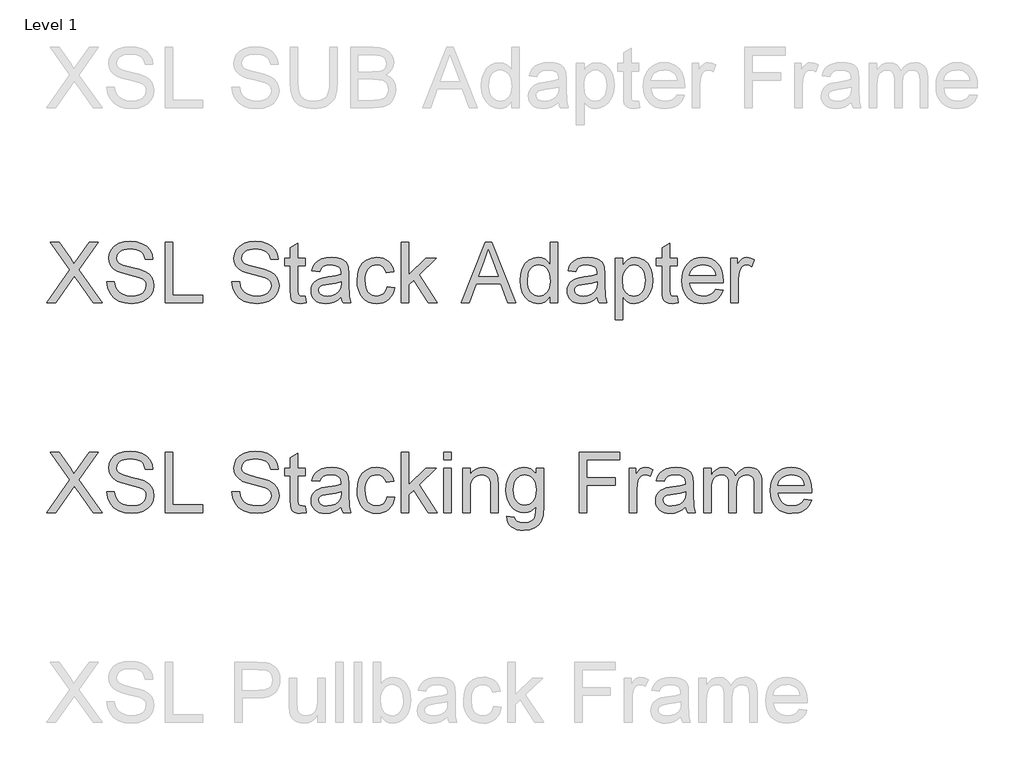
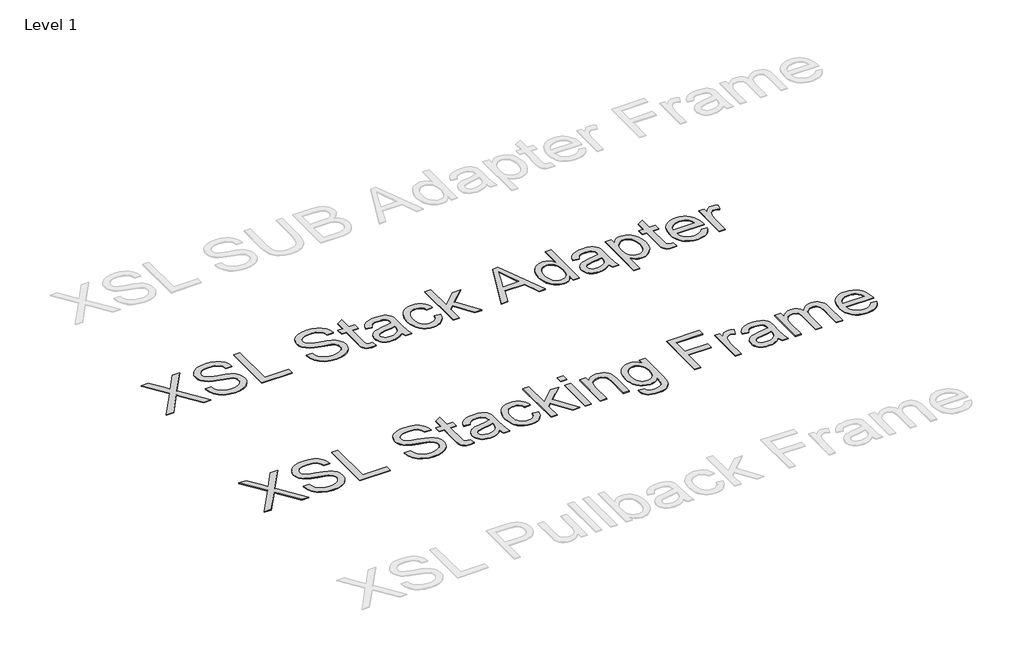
# One storey, part 5 of 52: 2 proxies.
"""IFC4 building model written with IfcOpenShell, lengths in millimetres."""

from ifc_helpers import new_model, si_unit, origin, origin_with_axes, place, context, project, spatial, polyline, outline, extrude, element, save

model = new_model("IFC4")

# Units and contexts
model_context = context("Model", 3, world=origin())
ifc_project = project(units=[si_unit("LENGTHUNIT", "METRE", prefix="MILLI")], contexts=[model_context])

# Site, building, storey
site = spatial("IfcSite", under=ifc_project)
building = spatial("IfcBuilding", under=site)
storey = spatial("IfcBuildingStorey", under=building, Name="Level 1", Elevation=0.0)

# Proxies
placement = place(None, origin())
element("IfcBuildingElementProxy", 1, Name="400mm Arial", ObjectType="400mm Arial", at=placement, inside=storey, context=model_context, shape_type="SweptSolid", body=[
    extrude(outline(polyline([(-18995.0211414, -70222.6117308), (-18840.2163979, -70003.6483673), (-18969.9070639, -69820.7864902), (-18909.7706204, -69820.7864902), (-18836.6847307, -69923.7934489), (-18812.0611625, -69963.9171118), (-18783.2192141, -69922.9105321), (-18710.9181393, -69820.7864902), (-18649.7025753, -69820.7864902), (-18779.4913432, -70004.3350804), (-18624.5884978, -70222.6117308), (-18684.8230431, -70222.6117308), (-18788.1243074, -70077.1266645), (-18809.6086159, -70047.0093918), (-18833.0549617, -70080.0697204), (-18933.8055774, -70222.6117308), (-18995.0211414, -70222.6117308)])), origin_with_axes(), (0.0, 0.0, 1.0), 5.0),
    extrude(outline(polyline([(-18593.1959008, -70084.4843044), (-18542.9677458, -70084.4843044), (-18537.2042612, -70112.3574969), (-18526.780938, -70134.7615104), (-18510.5205538, -70152.5424735), (-18487.2458862, -70166.5465148), (-18458.7963453, -70175.6332001), (-18427.0113409, -70178.6620952), (-18399.0277838, -70176.3689641), (-18374.5268429, -70169.4895707), (-18354.6734779, -70158.6002637), (-18340.6326484, -70144.2773913), (-18332.2817271, -70127.8330662), (-18329.4980867, -70110.5794006), (-18331.5827513, -70093.7671934), (-18337.8367453, -70079.2358546), (-18350.5409368, -70066.8382314), (-18371.9761944, -70056.4271709), (-18445.1111351, -70037.2482562), (-18493.1197354, -70024.5563274), (-18523.837882, -70012.4775352), (-18548.841595, -69995.5794889), (-18566.5612444, -69975.1007245), (-18577.1194577, -69951.4827004), (-18580.6388621, -69925.166875), (-18576.2855918, -69895.7485781), (-18563.225781, -69868.316844), (-18541.8027861, -69845.0667019), (-18512.3599638, -69828.1931811), (-18477.0187668, -69817.9292734), (-18437.9006479, -69814.5079709), (-18395.5206421, -69818.0886889), (-18358.438137, -69828.8308432), (-18327.9775078, -69846.5137044), (-18305.4631297, -69870.9165435), (-18291.2138337, -69900.5187813), (-18285.548451, -69933.7998392), (-18335.7766061, -69933.7998392), (-18344.9981814, -69903.8297193), (-18353.3613655, -69891.9716563), (-18364.226147, -69882.198258), (-18394.2698433, -69869.1016589), (-18435.9386106, -69864.7361259), (-18478.5883966, -69869.052608), (-18494.8917004, -69874.4482106), (-18507.847278, -69882.0020542), (-18524.7698497, -69901.0583416), (-18530.410707, -69923.695347), (-18526.413056, -69942.996889), (-18514.4201029, -69958.5215092), (-18486.0686638, -69972.4029232), (-18432.4069435, -69986.5786427), (-18377.0284405, -70000.0431238), (-18343.5266535, -70011.7908221), (-18314.8931715, -70030.0132436), (-18294.9171792, -70052.5030963), (-18283.1817435, -70079.0151254), (-18279.2699316, -70109.3040763), (-18283.7703547, -70140.2674776), (-18297.2716239, -70169.3914689), (-18319.2219163, -70194.4564955), (-18349.0694088, -70213.2430027), (-18384.9624288, -70224.9784383), (-18425.0493036, -70228.8902502), (-18474.2596518, -70224.67187), (-18514.7634595, -70212.0167294), (-18547.0267105, -70190.8757774), (-18571.5153886, -70161.1999631), (-18587.2362125, -70125.0494257), (-18593.1959008, -70084.4843044)])), origin_with_axes(), (0.0, 0.0, 1.0), 5.0),
    extrude(outline(polyline([(-18203.927699, -70222.6117308), (-18203.927699, -69820.7864902), (-18153.6995439, -69820.7864902), (-18153.6995439, -70172.3835758), (-17952.7869236, -70172.3835758), (-17952.7869236, -70222.6117308), (-18203.927699, -70222.6117308)])), origin_with_axes(), (0.0, 0.0, 1.0), 5.0),
    extrude(outline(polyline([(-17758.1528227, -70084.4843044), (-17707.9246677, -70084.4843044), (-17702.1611831, -70112.3574969), (-17691.7378599, -70134.7615104), (-17675.4774757, -70152.5424735), (-17652.2028081, -70166.5465148), (-17623.7532672, -70175.6332001), (-17591.9682628, -70178.6620952), (-17563.9847057, -70176.3689641), (-17539.4837648, -70169.4895707), (-17519.6303998, -70158.6002637), (-17505.5895703, -70144.2773913), (-17497.238649, -70127.8330662), (-17494.4550086, -70110.5794006), (-17496.5396732, -70093.7671934), (-17502.7936671, -70079.2358546), (-17515.4978587, -70066.8382314), (-17536.9331163, -70056.4271709), (-17610.0680569, -70037.2482562), (-17658.0766573, -70024.5563274), (-17688.7948039, -70012.4775352), (-17713.7985168, -69995.5794889), (-17731.5181663, -69975.1007245), (-17742.0763795, -69951.4827004), (-17745.595784, -69925.166875), (-17741.2425137, -69895.7485781), (-17728.1827029, -69868.316844), (-17706.759708, -69845.0667019), (-17677.3168857, -69828.1931811), (-17641.9756886, -69817.9292734), (-17602.8575698, -69814.5079709), (-17560.477564, -69818.0886889), (-17523.3950589, -69828.8308432), (-17492.9344297, -69846.5137044), (-17470.4200516, -69870.9165435), (-17456.1707556, -69900.5187813), (-17450.5053729, -69933.7998392), (-17500.733528, -69933.7998392), (-17509.9551033, -69903.8297193), (-17518.3182873, -69891.9716563), (-17529.1830689, -69882.198258), (-17559.2267652, -69869.1016589), (-17600.8955325, -69864.7361259), (-17643.5453185, -69869.052608), (-17659.8486222, -69874.4482106), (-17672.8041998, -69882.0020542), (-17689.7267716, -69901.0583416), (-17695.3676289, -69923.695347), (-17691.3699779, -69942.996889), (-17679.3770248, -69958.5215092), (-17651.0255857, -69972.4029232), (-17597.3638654, -69986.5786427), (-17541.9853624, -70000.0431238), (-17508.4835753, -70011.7908221), (-17479.8500934, -70030.0132436), (-17459.874101, -70052.5030963), (-17448.1386654, -70079.0151254), (-17444.2268535, -70109.3040763), (-17448.7272766, -70140.2674776), (-17462.2285458, -70169.3914689), (-17484.1788382, -70194.4564955), (-17514.0263307, -70213.2430027), (-17549.9193507, -70224.9784383), (-17590.0062255, -70228.8902502), (-17639.2165737, -70224.67187), (-17679.7203814, -70212.0167294), (-17711.9836323, -70190.8757774), (-17736.4723105, -70161.1999631), (-17752.1931344, -70125.0494257), (-17758.1528227, -70084.4843044)])), origin_with_axes(), (0.0, 0.0, 1.0), 5.0),
    extrude(outline(polyline([(-17268.4283107, -70180.7222343), (-17262.1497914, -70224.0832588), (-17299.7228058, -70228.8902502), (-17323.8313392, -70226.8055856), (-17341.8085061, -70220.5515917), (-17354.5126976, -70210.9130834), (-17362.8023052, -70198.6748757), (-17367.364042, -70177.656551), (-17368.8846209, -70141.6776919), (-17368.8846209, -69977.7494749), (-17406.5557372, -69977.7494749), (-17406.5557372, -69927.5213198), (-17368.8846209, -69927.5213198), (-17368.8846209, -69855.8088562), (-17318.6564658, -69826.2801947), (-17318.6564658, -69927.5213198), (-17268.4283107, -69927.5213198), (-17268.4283107, -69977.7494749), (-17318.6564658, -69977.7494749), (-17318.6564658, -70140.2061639), (-17316.0077155, -70166.1050564), (-17307.4238022, -70175.2775808), (-17290.3050267, -70178.6620952), (-17268.4283107, -70180.7222343)])), origin_with_axes(), (0.0, 0.0, 1.0), 5.0),
    extrude(outline(polyline([(-17029.8445741, -70184.9406145), (-17053.842743, -70205.5174808), (-17078.5521503, -70218.9819618), (-17104.5368819, -70226.4131781), (-17132.3610235, -70228.8902502), (-17154.7251831, -70227.4003281), (-17174.3363591, -70222.9305619), (-17191.1945515, -70215.4809515), (-17205.2997604, -70205.0514969), (-17216.4373878, -70192.3043858), (-17224.3928359, -70177.9018057), (-17229.1661048, -70161.8437566), (-17230.7571944, -70144.1302385), (-17228.3536987, -70123.3081176), (-17221.1432116, -70104.3989831), (-17210.0209126, -70088.2121753), (-17195.8819813, -70075.5570346), (-17179.2659778, -70065.9921028), (-17160.7124626, -70059.0759213), (-17117.2533362, -70051.5220776), (-17065.8970097, -70043.5758265), (-17030.1388797, -70034.2561493), (-17029.8445741, -70023.0725367), (-17033.3026649, -70000.6562604), (-17043.6769372, -69985.9900315), (-17066.8780283, -69975.1007245), (-17099.202593, -69971.4709555), (-17129.1236619, -69973.8867139), (-17150.0193592, -69981.1339892), (-17164.2686552, -69994.5371566), (-17174.25052, -70015.4205912), (-17224.4786751, -70009.1420718), (-17215.7598718, -69981.6735495), (-17202.7491119, -69960.0911391), (-17184.2323848, -69943.5855002), (-17158.9956799, -69931.3472925), (-17128.1303805, -69923.7689234), (-17092.7278699, -69921.2428004), (-17058.7723617, -69923.4746178), (-17031.8556624, -69930.1700701), (-17011.560839, -69940.2377741), (-16997.4709586, -69952.5863464), (-16988.1267559, -69967.8534492), (-16982.0689657, -69986.6767446), (-16979.6164191, -70030.6263803), (-16979.6164191, -70093.1172685), (-16977.0657706, -70180.3788778), (-16967.0593803, -70222.6117308), (-17017.2875354, -70222.6117308), (-17025.3318883, -70205.1495988), (-17029.8445741, -70184.9406145)]), holes=[polyline([(-17029.8445741, -70084.4843044), (-17063.5916158, -70092.8474884), (-17110.8767149, -70099.8862973), (-17154.0905866, -70108.0287521), (-17165.335513, -70113.5960329), (-17173.6619088, -70121.2725039), (-17178.8122567, -70130.4695538), (-17180.5290394, -70140.5985714), (-17176.7889057, -70155.5345804), (-17165.5685049, -70167.7727881), (-17147.1130915, -70175.9397684), (-17121.6679201, -70178.6620952), (-17094.6899072, -70175.6577255), (-17070.8511539, -70166.6446166), (-17051.5250864, -70153.3640766), (-17038.0851308, -70137.5574136), (-17032.1254425, -70121.2725039), (-17030.1388797, -70098.7090749), (-17029.8445741, -70084.4843044)])]), origin_with_axes(), (0.0, 0.0, 1.0), 5.0),
    extrude(outline(polyline([(-16722.1971243, -70115.8769013), (-16671.9689692, -70122.1554207), (-16677.4320169, -70145.8562182), (-16685.9730105, -70166.8285576), (-16697.5919502, -70185.0724389), (-16712.2888359, -70200.5878621), (-16729.4443996, -70212.9701569), (-16748.4393733, -70221.8146532), (-16769.273757, -70227.121351), (-16791.9475506, -70228.8902502), (-16820.1181144, -70226.4223752), (-16845.376279, -70219.01875), (-16867.7220446, -70206.6793748), (-16887.1554109, -70189.4042494), (-16902.8854319, -70167.5183364), (-16914.1211612, -70141.3465981), (-16920.8625988, -70110.8890346), (-16923.1097446, -70076.1456458), (-16919.2715091, -70031.4479834), (-16907.7568027, -69992.7100093), (-16888.3816843, -69961.427777), (-16860.9622129, -69939.0973399), (-16828.1594017, -69925.7064353), (-16792.6342637, -69921.2428004), (-16770.3498118, -69922.775642), (-16750.1929441, -69927.374167), (-16732.1636607, -69935.0383752), (-16716.2619615, -69945.7682667), (-16702.7576265, -69959.3185869), (-16691.9204361, -69975.444081), (-16683.7503901, -69994.1447491), (-16678.2474886, -70015.4205912), (-16728.4756437, -70021.6991105), (-16737.5868544, -69999.7856064), (-16751.7748367, -69984.0770452), (-16770.2547756, -69974.6224779), (-16792.2418562, -69971.4709555), (-16809.3085151, -69973.0221912), (-16824.7013109, -69977.6758985), (-16838.4202436, -69985.4320772), (-16850.4653133, -69996.2907274), (-16860.2724341, -70010.5032352), (-16867.2775205, -70028.3209865), (-16871.4805723, -70049.7439813), (-16872.8815895, -70074.7722197), (-16867.4001478, -70121.8488524), (-16860.5483456, -70139.7861653), (-16850.9558226, -70153.989476), (-16839.1498763, -70164.7837469), (-16825.6578041, -70172.4939404), (-16810.4796061, -70177.1200565), (-16793.6152823, -70178.6620952), (-16767.6060252, -70174.8115969), (-16746.2811323, -70163.2601023), (-16730.7687748, -70143.7133056), (-16722.1971243, -70115.8769013)])), origin_with_axes(), (0.0, 0.0, 1.0), 5.0),
    extrude(outline(polyline([(-16628.0193335, -70222.6117308), (-16628.0193335, -69820.7864902), (-16577.7911785, -69820.7864902), (-16577.7911785, -70036.7086959), (-16465.170237, -69927.5213198), (-16395.7141163, -69927.5213198), (-16509.8065858, -70038.0821221), (-16389.4355969, -70222.6117308), (-16448.1005124, -70222.6117308), (-16545.8099704, -70073.0063861), (-16577.7911785, -70104.1046775), (-16577.7911785, -70222.6117308), (-16628.0193335, -70222.6117308)])), origin_with_axes(), (0.0, 0.0, 1.0), 5.0),
    extrude(outline(polyline([(-16345.4859612, -70222.6117308), (-16345.4859612, -69927.5213198), (-16295.2578062, -69927.5213198), (-16295.2578062, -70222.6117308), (-16345.4859612, -70222.6117308)])), origin_with_axes(), (0.0, 0.0, 1.0), 5.0),
    extrude(outline(polyline([(-16345.4859612, -69871.0146453), (-16345.4859612, -69820.7864902), (-16295.2578062, -69820.7864902), (-16295.2578062, -69871.0146453), (-16345.4859612, -69871.0146453)])), origin_with_axes(), (0.0, 0.0, 1.0), 5.0),
    extrude(outline(polyline([(-16219.9155736, -70222.6117308), (-16219.9155736, -69927.5213198), (-16169.6874185, -69927.5213198), (-16169.6874185, -69968.7241032), (-16152.2375492, -69947.9510332), (-16131.2805382, -69933.1131261), (-16106.8163855, -69924.2103818), (-16078.8450911, -69921.2428004), (-16054.0866329, -69923.6340334), (-16031.4128392, -69930.8077323), (-16012.5037047, -69941.8687176), (-15999.0392237, -69955.9218098), (-15989.9034874, -69972.9302207), (-15983.9805873, -69992.8571621), (-15981.331837, -70041.4175855), (-15981.331837, -70222.6117308), (-16031.559992, -70222.6117308), (-16031.559992, -70048.1866142), (-16033.0069945, -70022.2141453), (-16037.3480021, -70003.7464692), (-16045.3555668, -69990.5149801), (-16057.802241, -69980.2510724), (-16073.7560569, -69973.6659847), (-16092.2850467, -69971.4709555), (-16121.7033436, -69976.4005742), (-16146.7806329, -69991.1894304), (-16156.8023516, -70003.2620912), (-16163.9607221, -70019.7615987), (-16168.2557444, -70040.6879529), (-16169.6874185, -70066.0411537), (-16169.6874185, -70222.6117308), (-16219.9155736, -70222.6117308)])), origin_with_axes(), (0.0, 0.0, 1.0), 5.0),
    extrude(outline(polyline([(-15924.8251625, -70247.7258084), (-15874.5970074, -70254.0043278), (-15869.054252, -70269.7006262), (-15858.3120978, -70280.4918314), (-15837.1956712, -70288.8795409), (-15809.5554707, -70291.6754441), (-15780.0758601, -70288.5116589), (-15758.1500932, -70279.0203034), (-15742.9443041, -70263.8145143), (-15733.6246269, -70243.5074282), (-15730.1910616, -70184.9406145), (-15746.9051669, -70201.4217279), (-15765.5567841, -70213.1939518), (-15786.145913, -70220.2572861), (-15808.6725539, -70222.6117308), (-15836.2115869, -70219.87101), (-15860.4580761, -70211.6488474), (-15881.4120214, -70197.9452431), (-15899.0734228, -70178.760197), (-15913.0866612, -70155.7430469), (-15923.0961171, -70130.5431302), (-15929.1017907, -70103.160447), (-15931.1036819, -70073.5949973), (-15927.5107011, -70033.0421387), (-15916.7317586, -69995.7511672), (-15899.1469992, -69964.1501038), (-15875.1365677, -69940.6669697), (-15845.5220671, -69926.0988427), (-15811.1251005, -69921.2428004), (-15787.6358351, -69923.9896526), (-15766.3170735, -69932.2302093), (-15747.1688157, -69945.9644705), (-15730.1910616, -69965.1924361), (-15730.1910616, -69927.5213198), (-15679.9629065, -69927.5213198), (-15679.9629065, -70182.2918642), (-15683.3964718, -70241.1161952), (-15693.6971677, -70279.8541693), (-15711.4413426, -70305.5445953), (-15737.205345, -70325.226282), (-15770.4250891, -70337.7342699), (-15810.5364893, -70341.9035991), (-15835.1447291, -70340.4351369), (-15857.2697654, -70336.02975), (-15876.9115983, -70328.6874385), (-15894.0702277, -70318.4082024), (-15907.9301819, -70305.179779), (-15917.6759891, -70288.9899055), (-15923.3076493, -70269.838582), (-15924.8251625, -70247.7258084)]), holes=[polyline([(-15880.8755268, -70070.161432), (-15875.5167124, -70116.2325206), (-15868.8181944, -70133.8693966), (-15859.4402692, -70147.9071604), (-15848.0389931, -70158.6155921), (-15835.2704221, -70166.2644719), (-15821.1345565, -70170.8537998), (-15805.6313961, -70172.3835758), (-15790.2815198, -70170.8629969), (-15776.2130992, -70166.3012601), (-15763.4261342, -70158.6983656), (-15751.9206248, -70148.0543132), (-15742.4139409, -70134.1545051), (-15735.6234524, -70116.7843436), (-15730.1910616, -70071.63296), (-15735.7828679, -70028.0879945), (-15742.7726258, -70010.8864456), (-15752.5582869, -69996.7321858), (-15764.3121166, -69985.6803975), (-15777.2063806, -69977.7862631), (-15791.2410787, -69973.0497824), (-15806.416211, -69971.4709555), (-15821.3368916, -69973.0252569), (-15835.0987439, -69977.6881612), (-15859.1459636, -69996.3397783), (-15868.6526475, -70010.2794403), (-15875.443136, -70027.2296032), (-15880.8755268, -70070.161432)])]), origin_with_axes(), (0.0, 0.0, 1.0), 5.0),
    extrude(outline(polyline([(-15441.3791699, -70222.6117308), (-15441.3791699, -69820.7864902), (-15171.4028364, -69820.7864902), (-15171.4028364, -69871.0146453), (-15391.1510148, -69871.0146453), (-15391.1510148, -69990.3065136), (-15202.7954333, -69990.3065136), (-15202.7954333, -70040.5346687), (-15391.1510148, -70040.5346687), (-15391.1510148, -70222.6117308), (-15441.3791699, -70222.6117308)])), origin_with_axes(), (0.0, 0.0, 1.0), 5.0),
    extrude(outline(polyline([(-15108.6176425, -70222.6117308), (-15108.6176425, -69927.5213198), (-15064.6680068, -69927.5213198), (-15064.6680068, -69971.1766499), (-15048.4321481, -69945.8663686), (-15033.4716136, -69930.9548851), (-15018.4620282, -69923.6708216), (-15002.0790167, -69921.2428004), (-14977.0630411, -69925.1178241), (-14951.6546579, -69936.7428951), (-14968.4300769, -69981.7716513), (-14986.0884127, -69974.0461294), (-15003.7467484, -69971.4709555), (-15018.7440711, -69973.9480276), (-15032.1472385, -69981.3792439), (-15042.9752319, -69993.2005187), (-15050.2470326, -70008.8477662), (-15056.3538737, -70036.9048997), (-15058.3894875, -70067.5126817), (-15058.3894875, -70222.6117308), (-15108.6176425, -70222.6117308)])), origin_with_axes(), (0.0, 0.0, 1.0), 5.0),
    extrude(outline(polyline([(-14731.9064795, -70184.9406145), (-14755.9046483, -70205.5174808), (-14780.6140556, -70218.9819618), (-14806.5987872, -70226.4131781), (-14834.4229288, -70228.8902502), (-14856.7870884, -70227.4003281), (-14876.3982644, -70222.9305619), (-14893.2564569, -70215.4809515), (-14907.3616657, -70205.0514969), (-14918.4992931, -70192.3043858), (-14926.4547413, -70177.9018057), (-14931.2280101, -70161.8437566), (-14932.8190998, -70144.1302385), (-14930.4156041, -70123.3081176), (-14923.205117, -70104.3989831), (-14912.082818, -70088.2121753), (-14897.9438866, -70075.5570346), (-14881.3278832, -70065.9921028), (-14862.7743679, -70059.0759213), (-14819.3152415, -70051.5220776), (-14767.958915, -70043.5758265), (-14732.2007851, -70034.2561493), (-14731.9064795, -70023.0725367), (-14735.3645702, -70000.6562604), (-14745.7388425, -69985.9900315), (-14768.9399337, -69975.1007245), (-14801.2644983, -69971.4709555), (-14831.1855672, -69973.8867139), (-14852.0812646, -69981.1339892), (-14866.3305605, -69994.5371566), (-14876.3124253, -70015.4205912), (-14926.5405804, -70009.1420718), (-14917.8217771, -69981.6735495), (-14904.8110172, -69960.0911391), (-14886.2942901, -69943.5855002), (-14861.0575852, -69931.3472925), (-14830.1922858, -69923.7689234), (-14794.7897752, -69921.2428004), (-14760.834267, -69923.4746178), (-14733.9175677, -69930.1700701), (-14713.6227443, -69940.2377741), (-14699.5328639, -69952.5863464), (-14690.1886612, -69967.8534492), (-14684.130871, -69986.6767446), (-14681.6783244, -70030.6263803), (-14681.6783244, -70093.1172685), (-14679.1276759, -70180.3788778), (-14669.1212856, -70222.6117308), (-14719.3494407, -70222.6117308), (-14727.3937937, -70205.1495988), (-14731.9064795, -70184.9406145)]), holes=[polyline([(-14731.9064795, -70084.4843044), (-14765.6535212, -70092.8474884), (-14812.9386203, -70099.8862973), (-14856.152492, -70108.0287521), (-14867.3974183, -70113.5960329), (-14875.7238141, -70121.2725039), (-14880.874162, -70130.4695538), (-14882.5909447, -70140.5985714), (-14878.8508111, -70155.5345804), (-14867.6304102, -70167.7727881), (-14849.1749968, -70175.9397684), (-14823.7298255, -70178.6620952), (-14796.7518125, -70175.6577255), (-14772.9130592, -70166.6446166), (-14753.5869917, -70153.3640766), (-14740.1470362, -70137.5574136), (-14734.1873478, -70121.2725039), (-14732.2007851, -70098.7090749), (-14731.9064795, -70084.4843044)])]), origin_with_axes(), (0.0, 0.0, 1.0), 5.0),
    extrude(outline(polyline([(-14612.6146112, -70222.6117308), (-14612.6146112, -69927.5213198), (-14562.3864561, -69927.5213198), (-14562.3864561, -69976.0817431), (-14547.2787688, -69953.7758315), (-14527.8545995, -69936.3014367), (-14504.7761356, -69925.0074595), (-14478.7055649, -69921.2428004), (-14450.7710588, -69925.0810359), (-14428.379308, -69936.5957423), (-14411.6529399, -69955.0266303), (-14400.7145819, -69979.6134103), (-14382.4063213, -69954.0762685), (-14361.5228867, -69935.8354529), (-14338.0642782, -69924.8909635), (-14312.0304956, -69921.2428004), (-14291.9226789, -69922.7603136), (-14274.2735402, -69927.3128533), (-14259.0830795, -69934.9004195), (-14246.3512968, -69945.5230121), (-14236.2866585, -69959.3032585), (-14229.0976312, -69976.363786), (-14224.7842148, -69996.7045947), (-14223.3464093, -70020.3256844), (-14223.3464093, -70222.6117308), (-14273.5745644, -70222.6117308), (-14273.5745644, -70041.9080948), (-14274.7395241, -70016.8553309), (-14278.234403, -69999.9695474), (-14284.7827025, -69988.40579), (-14295.1079239, -69979.3191047), (-14308.3884639, -69973.4329928), (-14323.8027195, -69971.4709555), (-14351.0137244, -69976.4986761), (-14373.1970087, -69991.5818379), (-14381.8023817, -70003.1517266), (-14387.9490767, -70017.7505105), (-14392.8664327, -70056.0347634), (-14392.8664327, -70222.6117308), (-14443.0945878, -70222.6117308), (-14443.0945878, -70036.3162885), (-14446.0008556, -70007.9157985), (-14454.7196588, -69987.6577633), (-14470.060338, -69975.5176574), (-14492.8322335, -69971.4709555), (-14512.1828265, -69974.1687568), (-14530.0128405, -69982.2621607), (-14544.7281203, -69995.5549634), (-14554.7345106, -70013.8509613), (-14560.4734697, -70039.234819), (-14562.3864561, -70073.7912011), (-14562.3864561, -70222.6117308), (-14612.6146112, -70222.6117308)])), origin_with_axes(), (0.0, 0.0, 1.0), 5.0),
    extrude(outline(polyline([(-13941.4016482, -70134.7124595), (-13892.1545118, -70140.9909788), (-13899.7052898, -70160.7155852), (-13909.8986867, -70178.0980094), (-13922.7347027, -70193.1382517), (-13938.2133376, -70205.8363119), (-13956.175176, -70215.9224099), (-13976.4608024, -70223.1267656), (-14024.0034189, -70228.8902502), (-14055.1691552, -70226.4039811), (-14082.9381145, -70218.9451736), (-14107.3102967, -70206.5138279), (-14128.2857018, -70189.1099438), (-14145.1530913, -70167.2178994), (-14157.2012266, -70141.3220726), (-14164.4301078, -70111.4224635), (-14166.8397349, -70077.5190719), (-14164.4055823, -70042.4660492), (-14157.1031247, -70011.5700929), (-14144.9323621, -69984.8312033), (-14127.8932943, -69962.2493801), (-14106.9730715, -69944.3090015), (-14083.1588437, -69931.4944453), (-14056.4506109, -69923.8057116), (-14026.848373, -69921.2428004), (-13998.1995626, -69923.7995803), (-13972.2914731, -69931.4699199), (-13949.1241044, -69944.2538192), (-13928.6974567, -69962.1512783), (-13912.0232052, -69984.6840505), (-13900.1130256, -70011.3738892), (-13892.9669179, -70042.2207945), (-13890.584882, -70077.2247664), (-13890.8791876, -70090.7628238), (-14116.6115798, -70090.7628238), (-14113.7022464, -70110.8062611), (-14107.917302, -70128.3603637), (-14099.2567467, -70143.4251314), (-14087.7205804, -70156.0005643), (-14073.9464654, -70165.914984), (-14058.5720637, -70172.9967124), (-14023.0224002, -70178.6620952), (-13996.2896419, -70176.0378703), (-13973.7752638, -70168.1651956), (-13955.4792659, -70154.5535617), (-13941.4016482, -70134.7124595)]), holes=[polyline([(-14116.6115798, -70040.5346687), (-13940.813037, -70040.5346687), (-13947.6065912, -70013.9981141), (-13960.9239194, -69995.0154032), (-13974.6213924, -69984.7147073), (-13990.2073263, -69977.3570674), (-14007.681721, -69972.9424835), (-14027.0445767, -69971.4709555), (-14060.901983, -69976.1675823), (-14088.8978028, -69990.2574627), (-14108.3587604, -70012.2200178), (-14116.6115798, -70040.5346687)])]), origin_with_axes(), (0.0, 0.0, 1.0), 5.0),
])
element("IfcBuildingElementProxy", 2, Name="400mm Arial", ObjectType="400mm Arial", at=placement, inside=storey, context=model_context, shape_type="SweptSolid", body=[
    extrude(outline(polyline([(-18995.0211414, -68822.6117308), (-18840.2163979, -68603.6483673), (-18969.9070639, -68420.7864902), (-18909.7706204, -68420.7864902), (-18836.6847307, -68523.7934489), (-18812.0611625, -68563.9171118), (-18783.2192141, -68522.9105321), (-18710.9181393, -68420.7864902), (-18649.7025753, -68420.7864902), (-18779.4913432, -68604.3350804), (-18624.5884978, -68822.6117308), (-18684.8230431, -68822.6117308), (-18788.1243074, -68677.1266645), (-18809.6086159, -68647.0093918), (-18833.0549617, -68680.0697204), (-18933.8055774, -68822.6117308), (-18995.0211414, -68822.6117308)])), origin_with_axes(), (0.0, 0.0, 1.0), 5.0),
    extrude(outline(polyline([(-18593.1959008, -68684.4843044), (-18542.9677458, -68684.4843044), (-18537.2042612, -68712.3574969), (-18526.780938, -68734.7615104), (-18510.5205538, -68752.5424735), (-18487.2458862, -68766.5465148), (-18458.7963453, -68775.6332001), (-18427.0113409, -68778.6620952), (-18399.0277838, -68776.3689641), (-18374.5268429, -68769.4895707), (-18354.6734779, -68758.6002637), (-18340.6326484, -68744.2773913), (-18332.2817271, -68727.8330662), (-18329.4980867, -68710.5794006), (-18331.5827513, -68693.7671934), (-18337.8367453, -68679.2358546), (-18350.5409368, -68666.8382314), (-18371.9761944, -68656.4271709), (-18445.1111351, -68637.2482562), (-18493.1197354, -68624.5563274), (-18523.837882, -68612.4775352), (-18548.841595, -68595.5794889), (-18566.5612444, -68575.1007245), (-18577.1194577, -68551.4827004), (-18580.6388621, -68525.166875), (-18576.2855918, -68495.7485781), (-18563.225781, -68468.316844), (-18541.8027861, -68445.0667019), (-18512.3599638, -68428.1931811), (-18477.0187668, -68417.9292734), (-18437.9006479, -68414.5079709), (-18395.5206421, -68418.0886889), (-18358.438137, -68428.8308432), (-18327.9775078, -68446.5137044), (-18305.4631297, -68470.9165435), (-18291.2138337, -68500.5187813), (-18285.548451, -68533.7998392), (-18335.7766061, -68533.7998392), (-18344.9981814, -68503.8297193), (-18353.3613655, -68491.9716563), (-18364.226147, -68482.198258), (-18394.2698433, -68469.1016589), (-18435.9386106, -68464.7361259), (-18478.5883966, -68469.052608), (-18494.8917004, -68474.4482106), (-18507.847278, -68482.0020542), (-18524.7698497, -68501.0583416), (-18530.410707, -68523.695347), (-18526.413056, -68542.996889), (-18514.4201029, -68558.5215092), (-18486.0686638, -68572.4029232), (-18432.4069435, -68586.5786427), (-18377.0284405, -68600.0431238), (-18343.5266535, -68611.7908221), (-18314.8931715, -68630.0132436), (-18294.9171792, -68652.5030963), (-18283.1817435, -68679.0151254), (-18279.2699316, -68709.3040763), (-18283.7703547, -68740.2674776), (-18297.2716239, -68769.3914689), (-18319.2219163, -68794.4564955), (-18349.0694088, -68813.2430027), (-18384.9624288, -68824.9784383), (-18425.0493036, -68828.8902502), (-18474.2596518, -68824.67187), (-18514.7634595, -68812.0167294), (-18547.0267105, -68790.8757774), (-18571.5153886, -68761.1999631), (-18587.2362125, -68725.0494257), (-18593.1959008, -68684.4843044)])), origin_with_axes(), (0.0, 0.0, 1.0), 5.0),
    extrude(outline(polyline([(-18203.927699, -68822.6117308), (-18203.927699, -68420.7864902), (-18153.6995439, -68420.7864902), (-18153.6995439, -68772.3835758), (-17952.7869236, -68772.3835758), (-17952.7869236, -68822.6117308), (-18203.927699, -68822.6117308)])), origin_with_axes(), (0.0, 0.0, 1.0), 5.0),
    extrude(outline(polyline([(-17758.1528227, -68684.4843044), (-17707.9246677, -68684.4843044), (-17702.1611831, -68712.3574969), (-17691.7378599, -68734.7615104), (-17675.4774757, -68752.5424735), (-17652.2028081, -68766.5465148), (-17623.7532672, -68775.6332001), (-17591.9682628, -68778.6620952), (-17563.9847057, -68776.3689641), (-17539.4837648, -68769.4895707), (-17519.6303998, -68758.6002637), (-17505.5895703, -68744.2773913), (-17497.238649, -68727.8330662), (-17494.4550086, -68710.5794006), (-17496.5396732, -68693.7671934), (-17502.7936671, -68679.2358546), (-17515.4978587, -68666.8382314), (-17536.9331163, -68656.4271709), (-17610.0680569, -68637.2482562), (-17658.0766573, -68624.5563274), (-17688.7948039, -68612.4775352), (-17713.7985168, -68595.5794889), (-17731.5181663, -68575.1007245), (-17742.0763795, -68551.4827004), (-17745.595784, -68525.166875), (-17741.2425137, -68495.7485781), (-17728.1827029, -68468.316844), (-17706.759708, -68445.0667019), (-17677.3168857, -68428.1931811), (-17641.9756886, -68417.9292734), (-17602.8575698, -68414.5079709), (-17560.477564, -68418.0886889), (-17523.3950589, -68428.8308432), (-17492.9344297, -68446.5137044), (-17470.4200516, -68470.9165435), (-17456.1707556, -68500.5187813), (-17450.5053729, -68533.7998392), (-17500.733528, -68533.7998392), (-17509.9551033, -68503.8297193), (-17518.3182873, -68491.9716563), (-17529.1830689, -68482.198258), (-17559.2267652, -68469.1016589), (-17600.8955325, -68464.7361259), (-17643.5453185, -68469.052608), (-17659.8486222, -68474.4482106), (-17672.8041998, -68482.0020542), (-17689.7267716, -68501.0583416), (-17695.3676289, -68523.695347), (-17691.3699779, -68542.996889), (-17679.3770248, -68558.5215092), (-17651.0255857, -68572.4029232), (-17597.3638654, -68586.5786427), (-17541.9853624, -68600.0431238), (-17508.4835753, -68611.7908221), (-17479.8500934, -68630.0132436), (-17459.874101, -68652.5030963), (-17448.1386654, -68679.0151254), (-17444.2268535, -68709.3040763), (-17448.7272766, -68740.2674776), (-17462.2285458, -68769.3914689), (-17484.1788382, -68794.4564955), (-17514.0263307, -68813.2430027), (-17549.9193507, -68824.9784383), (-17590.0062255, -68828.8902502), (-17639.2165737, -68824.67187), (-17679.7203814, -68812.0167294), (-17711.9836323, -68790.8757774), (-17736.4723105, -68761.1999631), (-17752.1931344, -68725.0494257), (-17758.1528227, -68684.4843044)])), origin_with_axes(), (0.0, 0.0, 1.0), 5.0),
    extrude(outline(polyline([(-17268.4283107, -68780.7222343), (-17262.1497914, -68824.0832588), (-17299.7228058, -68828.8902502), (-17323.8313392, -68826.8055856), (-17341.8085061, -68820.5515917), (-17354.5126976, -68810.9130834), (-17362.8023052, -68798.6748757), (-17367.364042, -68777.656551), (-17368.8846209, -68741.6776919), (-17368.8846209, -68577.7494749), (-17406.5557372, -68577.7494749), (-17406.5557372, -68527.5213198), (-17368.8846209, -68527.5213198), (-17368.8846209, -68455.8088562), (-17318.6564658, -68426.2801947), (-17318.6564658, -68527.5213198), (-17268.4283107, -68527.5213198), (-17268.4283107, -68577.7494749), (-17318.6564658, -68577.7494749), (-17318.6564658, -68740.2061639), (-17316.0077155, -68766.1050564), (-17307.4238022, -68775.2775808), (-17290.3050267, -68778.6620952), (-17268.4283107, -68780.7222343)])), origin_with_axes(), (0.0, 0.0, 1.0), 5.0),
    extrude(outline(polyline([(-17029.8445741, -68784.9406145), (-17053.842743, -68805.5174808), (-17078.5521503, -68818.9819618), (-17104.5368819, -68826.4131781), (-17132.3610235, -68828.8902502), (-17154.7251831, -68827.4003281), (-17174.3363591, -68822.9305619), (-17191.1945515, -68815.4809515), (-17205.2997604, -68805.0514969), (-17216.4373878, -68792.3043858), (-17224.3928359, -68777.9018057), (-17229.1661048, -68761.8437566), (-17230.7571944, -68744.1302385), (-17228.3536987, -68723.3081176), (-17221.1432116, -68704.3989831), (-17210.0209126, -68688.2121753), (-17195.8819813, -68675.5570346), (-17179.2659778, -68665.9921028), (-17160.7124626, -68659.0759213), (-17117.2533362, -68651.5220776), (-17065.8970097, -68643.5758265), (-17030.1388797, -68634.2561493), (-17029.8445741, -68623.0725367), (-17033.3026649, -68600.6562604), (-17043.6769372, -68585.9900315), (-17066.8780283, -68575.1007245), (-17099.202593, -68571.4709555), (-17129.1236619, -68573.8867139), (-17150.0193592, -68581.1339892), (-17164.2686552, -68594.5371566), (-17174.25052, -68615.4205912), (-17224.4786751, -68609.1420718), (-17215.7598718, -68581.6735495), (-17202.7491119, -68560.0911391), (-17184.2323848, -68543.5855002), (-17158.9956799, -68531.3472925), (-17128.1303805, -68523.7689234), (-17092.7278699, -68521.2428004), (-17058.7723617, -68523.4746178), (-17031.8556624, -68530.1700701), (-17011.560839, -68540.2377741), (-16997.4709586, -68552.5863464), (-16988.1267559, -68567.8534492), (-16982.0689657, -68586.6767446), (-16979.6164191, -68630.6263803), (-16979.6164191, -68693.1172685), (-16977.0657706, -68780.3788778), (-16967.0593803, -68822.6117308), (-17017.2875354, -68822.6117308), (-17025.3318883, -68805.1495988), (-17029.8445741, -68784.9406145)]), holes=[polyline([(-17029.8445741, -68684.4843044), (-17063.5916158, -68692.8474884), (-17110.8767149, -68699.8862973), (-17154.0905866, -68708.0287521), (-17165.335513, -68713.5960329), (-17173.6619088, -68721.2725039), (-17178.8122567, -68730.4695538), (-17180.5290394, -68740.5985714), (-17176.7889057, -68755.5345804), (-17165.5685049, -68767.7727881), (-17147.1130915, -68775.9397684), (-17121.6679201, -68778.6620952), (-17094.6899072, -68775.6577255), (-17070.8511539, -68766.6446166), (-17051.5250864, -68753.3640766), (-17038.0851308, -68737.5574136), (-17032.1254425, -68721.2725039), (-17030.1388797, -68698.7090749), (-17029.8445741, -68684.4843044)])]), origin_with_axes(), (0.0, 0.0, 1.0), 5.0),
    extrude(outline(polyline([(-16722.1971243, -68715.8769013), (-16671.9689692, -68722.1554207), (-16677.4320169, -68745.8562182), (-16685.9730105, -68766.8285576), (-16697.5919502, -68785.0724389), (-16712.2888359, -68800.5878621), (-16729.4443996, -68812.9701569), (-16748.4393733, -68821.8146532), (-16769.273757, -68827.121351), (-16791.9475506, -68828.8902502), (-16820.1181144, -68826.4223752), (-16845.376279, -68819.01875), (-16867.7220446, -68806.6793748), (-16887.1554109, -68789.4042494), (-16902.8854319, -68767.5183364), (-16914.1211612, -68741.3465981), (-16920.8625988, -68710.8890346), (-16923.1097446, -68676.1456458), (-16919.2715091, -68631.4479834), (-16907.7568027, -68592.7100093), (-16888.3816843, -68561.427777), (-16860.9622129, -68539.0973399), (-16828.1594017, -68525.7064353), (-16792.6342637, -68521.2428004), (-16770.3498118, -68522.775642), (-16750.1929441, -68527.374167), (-16732.1636607, -68535.0383752), (-16716.2619615, -68545.7682667), (-16702.7576265, -68559.3185869), (-16691.9204361, -68575.444081), (-16683.7503901, -68594.1447491), (-16678.2474886, -68615.4205912), (-16728.4756437, -68621.6991105), (-16737.5868544, -68599.7856064), (-16751.7748367, -68584.0770452), (-16770.2547756, -68574.6224779), (-16792.2418562, -68571.4709555), (-16809.3085151, -68573.0221912), (-16824.7013109, -68577.6758985), (-16838.4202436, -68585.4320772), (-16850.4653133, -68596.2907274), (-16860.2724341, -68610.5032352), (-16867.2775205, -68628.3209865), (-16871.4805723, -68649.7439813), (-16872.8815895, -68674.7722197), (-16867.4001478, -68721.8488524), (-16860.5483456, -68739.7861653), (-16850.9558226, -68753.989476), (-16839.1498763, -68764.7837469), (-16825.6578041, -68772.4939404), (-16810.4796061, -68777.1200565), (-16793.6152823, -68778.6620952), (-16767.6060252, -68774.8115969), (-16746.2811323, -68763.2601023), (-16730.7687748, -68743.7133056), (-16722.1971243, -68715.8769013)])), origin_with_axes(), (0.0, 0.0, 1.0), 5.0),
    extrude(outline(polyline([(-16628.0193335, -68822.6117308), (-16628.0193335, -68420.7864902), (-16577.7911785, -68420.7864902), (-16577.7911785, -68636.7086959), (-16465.170237, -68527.5213198), (-16395.7141163, -68527.5213198), (-16509.8065858, -68638.0821221), (-16389.4355969, -68822.6117308), (-16448.1005124, -68822.6117308), (-16545.8099704, -68673.0063861), (-16577.7911785, -68704.1046775), (-16577.7911785, -68822.6117308), (-16628.0193335, -68822.6117308)])), origin_with_axes(), (0.0, 0.0, 1.0), 5.0),
    extrude(outline(polyline([(-16228.9409452, -68822.6117308), (-16068.5443953, -68420.7864902), (-16025.771982, -68420.7864902), (-15865.4735339, -68822.6117308), (-15918.5466431, -68822.6117308), (-15964.4583161, -68697.0413432), (-16130.0542649, -68697.0413432), (-16175.9659379, -68822.6117308), (-16228.9409452, -68822.6117308)]), holes=[polyline([(-16111.6111142, -68646.8131881), (-15982.8033649, -68646.8131881), (-16019.1010551, -68548.0246096), (-16047.2562905, -68471.0146453), (-16072.2722662, -68539.3916455), (-16111.6111142, -68646.8131881)])]), origin_with_axes(), (0.0, 0.0, 1.0), 5.0),
    extrude(outline(polyline([(-15636.0132708, -68822.6117308), (-15636.0132708, -68775.2285299), (-15651.0412503, -68798.7055325), (-15669.2452777, -68815.4748201), (-15690.625353, -68825.5363927), (-15715.1814762, -68828.8902502), (-15747.6531936, -68824.0342079), (-15777.3780588, -68809.4660809), (-15802.5411873, -68786.2036761), (-15821.3276945, -68755.2648003), (-15833.026342, -68717.9002523), (-15836.9258911, -68675.3608309), (-15833.3329103, -68633.3487071), (-15822.5539678, -68595.4078106), (-15804.6013265, -68563.6963826), (-15779.4872489, -68540.3726641), (-15749.1124589, -68526.0252663), (-15715.3776799, -68521.2428004), (-15690.8031626, -68524.664103), (-15669.0735994, -68534.9280106), (-15650.6549742, -68550.6610973), (-15636.0132708, -68570.4899368), (-15636.0132708, -68420.7864902), (-15585.7851157, -68420.7864902), (-15585.7851157, -68822.6117308), (-15636.0132708, -68822.6117308)]), holes=[polyline([(-15786.697736, -68675.1646272), (-15785.2813904, -68699.5214809), (-15781.0323533, -68720.5980536), (-15773.9506249, -68738.3943451), (-15764.0362051, -68752.9103555), (-15739.3390605, -68772.2241602), (-15725.4637779, -68777.0526114), (-15710.5706885, -68778.6620952), (-15695.6070884, -68777.1261878), (-15681.8145792, -68772.5184658), (-15657.742834, -68754.0875779), (-15648.2361501, -68740.1785728), (-15641.4456616, -68723.0260748), (-15636.0132708, -68678.9905999), (-15641.5437635, -68630.8471095), (-15648.4568793, -68612.3119883), (-15658.1352415, -68597.4679498), (-15669.8369546, -68586.0942648), (-15682.8201233, -68577.9702041), (-15697.0847477, -68573.0957676), (-15712.6308277, -68571.4709555), (-15727.8182227, -68573.0313883), (-15741.6935053, -68577.7126867), (-15754.2566754, -68585.5148506), (-15765.5077331, -68596.4378802), (-15774.7783594, -68610.7208987), (-15781.4002353, -68628.6030293), (-15786.697736, -68675.1646272)])]), origin_with_axes(), (0.0, 0.0, 1.0), 5.0),
    extrude(outline(polyline([(-15322.0873016, -68784.9406145), (-15346.0854704, -68805.5174808), (-15370.7948778, -68818.9819618), (-15396.7796094, -68826.4131781), (-15424.6037509, -68828.8902502), (-15446.9679105, -68827.4003281), (-15466.5790866, -68822.9305619), (-15483.437279, -68815.4809515), (-15497.5424878, -68805.0514969), (-15508.6801152, -68792.3043858), (-15516.6355634, -68777.9018057), (-15521.4088323, -68761.8437566), (-15522.9999219, -68744.1302385), (-15520.5964262, -68723.3081176), (-15513.3859391, -68704.3989831), (-15502.2636401, -68688.2121753), (-15488.1247088, -68675.5570346), (-15471.5087053, -68665.9921028), (-15452.95519, -68659.0759213), (-15409.4960637, -68651.5220776), (-15358.1397371, -68643.5758265), (-15322.3816072, -68634.2561493), (-15322.0873016, -68623.0725367), (-15325.5453924, -68600.6562604), (-15335.9196646, -68585.9900315), (-15359.1207558, -68575.1007245), (-15391.4453204, -68571.4709555), (-15421.3663894, -68573.8867139), (-15442.2620867, -68581.1339892), (-15456.5113826, -68594.5371566), (-15466.4932474, -68615.4205912), (-15516.7214025, -68609.1420718), (-15508.0025992, -68581.6735495), (-15494.9918393, -68560.0911391), (-15476.4751122, -68543.5855002), (-15451.2384074, -68531.3472925), (-15420.373108, -68523.7689234), (-15384.9705973, -68521.2428004), (-15351.0150892, -68523.4746178), (-15324.0983898, -68530.1700701), (-15303.8035664, -68540.2377741), (-15289.713686, -68552.5863464), (-15280.3694833, -68567.8534492), (-15274.3116932, -68586.6767446), (-15271.8591465, -68630.6263803), (-15271.8591465, -68693.1172685), (-15269.308498, -68780.3788778), (-15259.3021078, -68822.6117308), (-15309.5302628, -68822.6117308), (-15317.5746158, -68805.1495988), (-15322.0873016, -68784.9406145)]), holes=[polyline([(-15322.0873016, -68684.4843044), (-15355.8343433, -68692.8474884), (-15403.1194424, -68699.8862973), (-15446.3333141, -68708.0287521), (-15457.5782404, -68713.5960329), (-15465.9046362, -68721.2725039), (-15471.0549842, -68730.4695538), (-15472.7717668, -68740.5985714), (-15469.0316332, -68755.5345804), (-15457.8112324, -68767.7727881), (-15439.3558189, -68775.9397684), (-15413.9106476, -68778.6620952), (-15386.9326346, -68775.6577255), (-15363.0938813, -68766.6446166), (-15343.7678138, -68753.3640766), (-15330.3278583, -68737.5574136), (-15324.36817, -68721.2725039), (-15322.3816072, -68698.7090749), (-15322.0873016, -68684.4843044)])]), origin_with_axes(), (0.0, 0.0, 1.0), 5.0),
    extrude(outline(polyline([(-15202.7954333, -68935.6250798), (-15202.7954333, -68527.5213198), (-15152.5672782, -68527.5213198), (-15152.5672782, -68576.7684562), (-15136.1842667, -68552.4759818), (-15117.8392179, -68535.1242143), (-15096.4530112, -68524.7131539), (-15070.9465262, -68521.2428004), (-15036.9787553, -68526.0988427), (-15007.2784156, -68540.6669697), (-14983.0963058, -68564.0642646), (-14965.6832247, -68595.4078106), (-14955.1617996, -68632.4167393), (-14951.6546579, -68672.8101824), (-14955.6155207, -68715.7665367), (-14967.4981092, -68754.1856797), (-14986.9222785, -68786.1178369), (-15013.507884, -68809.6132337), (-15044.4712853, -68824.0709961), (-15077.0288419, -68828.8902502), (-15100.1195684, -68825.6651514), (-15120.7332229, -68815.9898549), (-15138.3792959, -68801.3849397), (-15152.5672782, -68783.3709847), (-15152.5672782, -68935.6250798), (-15202.7954333, -68935.6250798)]), holes=[polyline([(-15152.5672782, -68677.4209701), (-15147.1348874, -68722.4497263), (-15140.3443989, -68739.8873329), (-15130.837715, -68753.9404251), (-15106.7904953, -68772.4816776), (-15093.028643, -68777.1169908), (-15078.1079624, -68778.6620952), (-15062.972684, -68777.0618085), (-15048.9594456, -68772.2609484), (-15036.0682474, -68764.259515), (-15024.2990892, -68753.0575083), (-15014.4919684, -68738.4955126), (-15007.4868821, -68720.4141126), (-15003.2838303, -68698.8133081), (-15001.882813, -68673.6930992), (-15007.351992, -68628.9095977), (-15014.1884657, -68611.337101), (-15023.759529, -68596.9774405), (-15047.7699605, -68577.8475767), (-15061.375463, -68573.0651108), (-15076.0478232, -68571.4709555), (-15090.6741982, -68573.1662783), (-15104.4360505, -68578.2522469), (-15129.3661871, -68598.5961212), (-15139.5166644, -68613.6946115), (-15146.7670054, -68631.8649163), (-15151.11721, -68653.1070359), (-15152.5672782, -68677.4209701)])]), origin_with_axes(), (0.0, 0.0, 1.0), 5.0),
    extrude(outline(polyline([(-14788.4131539, -68780.7222343), (-14782.1346345, -68824.0832588), (-14819.707649, -68828.8902502), (-14843.8161824, -68826.8055856), (-14861.7933492, -68820.5515917), (-14874.4975408, -68810.9130834), (-14882.7871484, -68798.6748757), (-14887.3488852, -68777.656551), (-14888.8694641, -68741.6776919), (-14888.8694641, -68577.7494749), (-14926.5405804, -68577.7494749), (-14926.5405804, -68527.5213198), (-14888.8694641, -68527.5213198), (-14888.8694641, -68455.8088562), (-14838.641309, -68426.2801947), (-14838.641309, -68527.5213198), (-14788.4131539, -68527.5213198), (-14788.4131539, -68577.7494749), (-14838.641309, -68577.7494749), (-14838.641309, -68740.2061639), (-14835.9925586, -68766.1050564), (-14827.4086454, -68775.2775808), (-14810.2898699, -68778.6620952), (-14788.4131539, -68780.7222343)])), origin_with_axes(), (0.0, 0.0, 1.0), 5.0),
    extrude(outline(polyline([(-14531.5824704, -68734.7124595), (-14482.3353339, -68740.9909788), (-14489.8861119, -68760.7155852), (-14500.0795088, -68778.0980094), (-14512.9155248, -68793.1382517), (-14528.3941597, -68805.8363119), (-14546.3559982, -68815.9224099), (-14566.6416245, -68823.1267656), (-14614.184241, -68828.8902502), (-14645.3499774, -68826.4039811), (-14673.1189366, -68818.9451736), (-14697.4911188, -68806.5138279), (-14718.4665239, -68789.1099438), (-14735.3339134, -68767.2178994), (-14747.3820487, -68741.3220726), (-14754.6109299, -68711.4224635), (-14757.020557, -68677.5190719), (-14754.5864045, -68642.4660492), (-14747.2839469, -68611.5700929), (-14735.1131842, -68584.8312033), (-14718.0741165, -68562.2493801), (-14697.1538937, -68544.3090015), (-14673.3396658, -68531.4944453), (-14646.631433, -68523.8057116), (-14617.0291951, -68521.2428004), (-14588.3803847, -68523.7995803), (-14562.4722952, -68531.4699199), (-14539.3049266, -68544.2538192), (-14518.8782788, -68562.1512783), (-14502.2040274, -68584.6840505), (-14490.2938478, -68611.3738892), (-14483.14774, -68642.2207945), (-14480.7657041, -68677.2247664), (-14481.0600097, -68690.7628238), (-14706.7924019, -68690.7628238), (-14703.8830685, -68710.8062611), (-14698.0981241, -68728.3603637), (-14689.4375688, -68743.4251314), (-14677.9014026, -68756.0005643), (-14664.1272875, -68765.914984), (-14648.7528858, -68772.9967124), (-14613.2032224, -68778.6620952), (-14586.470464, -68776.0378703), (-14563.9560859, -68768.1651956), (-14545.660088, -68754.5535617), (-14531.5824704, -68734.7124595)]), holes=[polyline([(-14706.7924019, -68640.5346687), (-14530.9938592, -68640.5346687), (-14537.7874133, -68613.9981141), (-14551.1047416, -68595.0154032), (-14564.8022145, -68584.7147073), (-14580.3881484, -68577.3570674), (-14597.8625432, -68572.9424835), (-14617.2253988, -68571.4709555), (-14651.0828051, -68576.1675823), (-14679.078625, -68590.2574627), (-14698.5395825, -68612.2200178), (-14706.7924019, -68640.5346687)])]), origin_with_axes(), (0.0, 0.0, 1.0), 5.0),
    extrude(outline(polyline([(-14430.537549, -68822.6117308), (-14430.537549, -68527.5213198), (-14386.5879133, -68527.5213198), (-14386.5879133, -68571.1766499), (-14370.3520546, -68545.8663686), (-14355.3915201, -68530.9548851), (-14340.3819347, -68523.6708216), (-14323.9989232, -68521.2428004), (-14298.9829475, -68525.1178241), (-14273.5745644, -68536.7428951), (-14290.3499834, -68581.7716513), (-14308.0083192, -68574.0461294), (-14325.6666549, -68571.4709555), (-14340.6639776, -68573.9480276), (-14354.067145, -68581.3792439), (-14364.8951383, -68593.2005187), (-14372.1669391, -68608.8477662), (-14378.2737802, -68636.9048997), (-14380.3093939, -68667.5126817), (-14380.3093939, -68822.6117308), (-14430.537549, -68822.6117308)])), origin_with_axes(), (0.0, 0.0, 1.0), 5.0),
])

save(model, "model.ifc")
